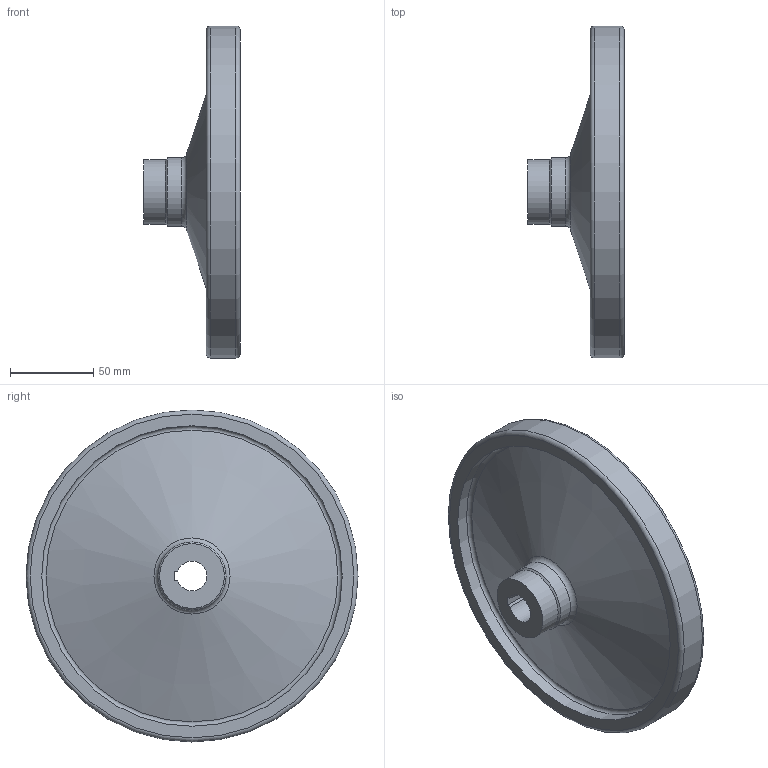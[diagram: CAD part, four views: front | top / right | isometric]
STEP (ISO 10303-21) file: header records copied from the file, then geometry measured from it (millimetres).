
FILE_DESCRIPTION( ( 'STEP AP203' ), '1' );
FILE_NAME( 'C:/Temp/Ganter_Step_05_03_2020/data/1_3/gn_321_5/gn_321_5_a/gn_321_5_a_zi/Safety handwheel GN 321.5-200-K18-A-ZI.stp', '2020-03-05T10:42:39', ( 'License CC BY-ND 4.0' ), ( 'CADENAS' ), ' ', 'PARTsolutions', ' ' );
FILE_SCHEMA( ( 'CONFIG_CONTROL_DESIGN' ) );
Length unit declared in the file: millimetre
Products named in the file (1): _Safety handwheel GN 321.5-200-K18-A-ZI
Bounding box: 58 x 200 x 200 mm (x, y, z)
Volume: 380874.8 mm3; surface area: 92116 mm2
Topology: 1 solids, 1 shells, 24 faces, 46 edges, 27 vertices
Faces by surface type: plane 8, cylinder 7, torus 5, cone 4
Full cylindrical faces by diameter (mm): 39 x2, 41 x1, 155 x1, 181 x1, 200 x1
Entity records: 576 total; most frequent: DIRECTION 102, CARTESIAN_POINT 83, ORIENTED_EDGE 62, AXIS2_PLACEMENT_3D 46, EDGE_LOOP 44, FACE_OUTER_BOUND 35, EDGE_CURVE 31, VERTEX_POINT 27
